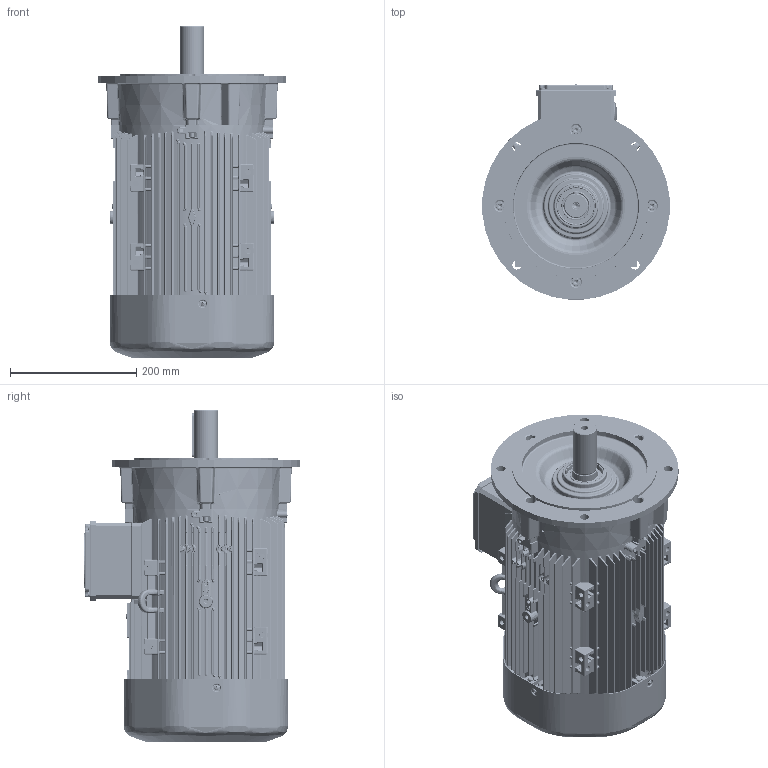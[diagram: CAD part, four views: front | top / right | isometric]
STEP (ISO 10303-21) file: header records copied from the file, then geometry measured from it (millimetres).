
FILE_DESCRIPTION(/* description */ (''),/* implementation_level */ '2;1');
FILE_NAME(/* name */ 'OUTLOOK VIEW QH132 FA B5 FF265 SPL.stp',/* time_stamp */ '2021-09-21T15:19:02+03:00',/* author */ (''),/* organization */ (''),/* preprocessor_version */ 'ST-DEVELOPER v16',/* originating_system */ 'SIEMENS PLM Software NX 11.0',/* authorisation */ '');
FILE_SCHEMA (('AUTOMOTIVE_DESIGN { 1 0 10303 214 3 1 1 1 }'));
Products named in the file (1): 260652D491E0rxjw
Bounding box: 296.87 x 341.14 x 526.5 mm (x, y, z)
Volume: 4750794.9 mm3; surface area: 1832076 mm2
Topology: 65 solids, 67 shells, 13213 faces, 30998 edges, 17204 vertices
Faces by surface type: cylinder 4387, bspline 3648, plane 2674, sphere 1228, torus 778, cone 467, extrusion 31
Full cylindrical faces by diameter (mm): 2.5 x2, 3.5 x2, 4 x4, 4.2 x8, 5.5 x8, 5.6 x1, 6.8 x1, 8 x20, 8.028 x3, 8.477 x2, 8.478 x1, 8.5 x8, 9 x4, 10.5 x1, 13 x8, 14.5 x4, 15 x2, 15.5 x4, 30.4 x2, 34.4 x1, 35 x1, 37.4 x1, 37.5 x1, 38 x1, 39.4 x2, 40 x5, 40.2 x1, 40.5 x1, 42.94 x1, 44 x2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
Entity records: 432000 total; most frequent: CARTESIAN_POINT 153844, ORIENTED_EDGE 58740, DIRECTION 56282, EDGE_CURVE 29370, AXIS2_PLACEMENT_3D 23047, VERTEX_POINT 16995, EDGE_LOOP 14433, ADVANCED_FACE 13212
